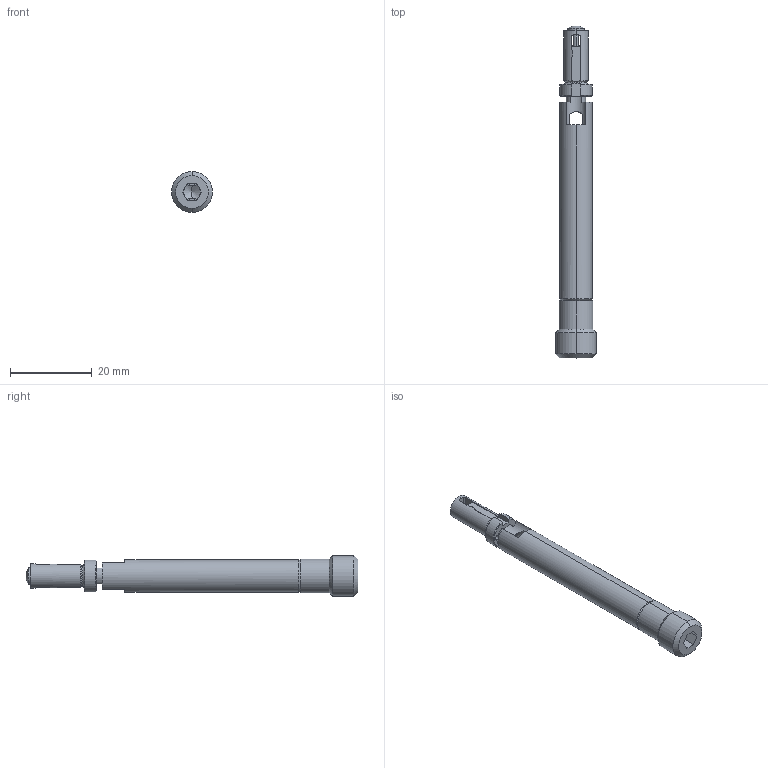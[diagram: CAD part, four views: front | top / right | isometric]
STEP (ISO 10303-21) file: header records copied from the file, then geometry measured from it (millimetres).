
FILE_DESCRIPTION (( 'STEP AP203' ), '1' );
FILE_NAME ('SGD-607C_PROFILO.STEP', '2016-12-20T14:16:04', ( 'Balzi' ), ( '' ), 'SwSTEP 2.0', 'SolidWorks 2016', '' );
FILE_SCHEMA (( 'CONFIG_CONTROL_DESIGN' ));
Length unit declared in the file: millimetre
Products named in the file (1): SGD-607C_PROFILO
Bounding box: 10 x 81.2 x 10 mm (x, y, z)
Volume: 2471.6 mm3; surface area: 3272.9 mm2
Topology: 3 solids, 3 shells, 100 faces, 269 edges, 168 vertices
Faces by surface type: plane 40, cylinder 36, cone 20, torus 4
Entity records: 3297 total; most frequent: CARTESIAN_POINT 717, DIRECTION 532, ORIENTED_EDGE 526, EDGE_CURVE 263, AXIS2_PLACEMENT_3D 207, VERTEX_POINT 168, LINE 118, VECTOR 118
